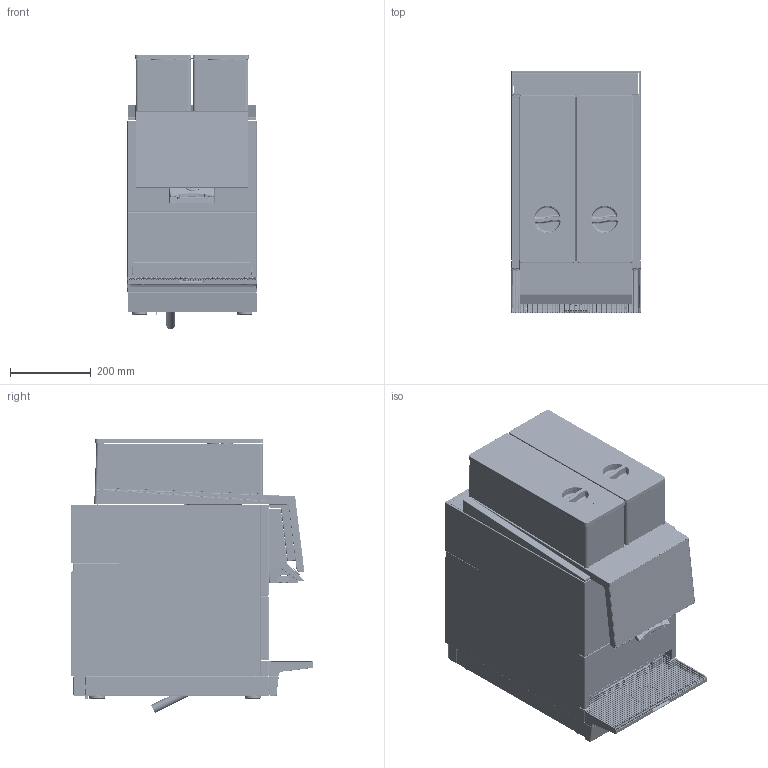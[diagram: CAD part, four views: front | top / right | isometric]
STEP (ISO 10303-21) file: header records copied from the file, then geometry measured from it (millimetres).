
FILE_DESCRIPTION(/* description */ ('Unknown'),/* implementation_level */ '2;1');
FILE_NAME(/* name */ 'BW4_CTM11',/* time_stamp */ '2019-08-26T16:27:49+02:00',/* author */ ('Unknown'),/* organization */ ('Unknown'),/* preprocessor_version */ 'ST-DEVELOPER v16.7',/* originating_system */ 'DEX',/* authorisation */ $);
FILE_SCHEMA (('AUTOMOTIVE_DESIGN {1 0 10303 214 3 1 1}'));
Products named in the file (1): BW4_CTM11
Bounding box: 321.32 x 599.9 x 679.49 mm (x, y, z)
Surface area: 3177280 mm2 (no closed solid volume)
Topology: 0 solids, 471 shells, 3193 faces, 20349 edges, 17043 vertices
Faces by surface type: plane 1212, cylinder 1135, torus 313, bspline 287, cone 193, sphere 53
Full cylindrical faces by diameter (mm): 2 x5, 2.5 x184, 3 x1, 3.2 x3, 4 x8, 4.2 x3, 4.5 x1, 4.8 x1, 5.2 x5, 5.705 x1, 6 x1, 6.2 x2, 11.4 x4, 13 x1, 13.4 x1, 14 x1, 16 x2, 16.02 x1, 16.682 x1, 16.9 x1, 17.2 x2, 21.2 x1, 21.7 x1, 22.65 x1, 23.15 x1, 24 x2, 29.5 x1, 30 x4
Entity records: 225996 total; most frequent: CARTESIAN_POINT 75359, DIRECTION 27289, ORIENTED_EDGE 23108, EDGE_CURVE 19193, VERTEX_POINT 16619, LINE 9723, VECTOR 9723, AXIS2_PLACEMENT_3D 8783
